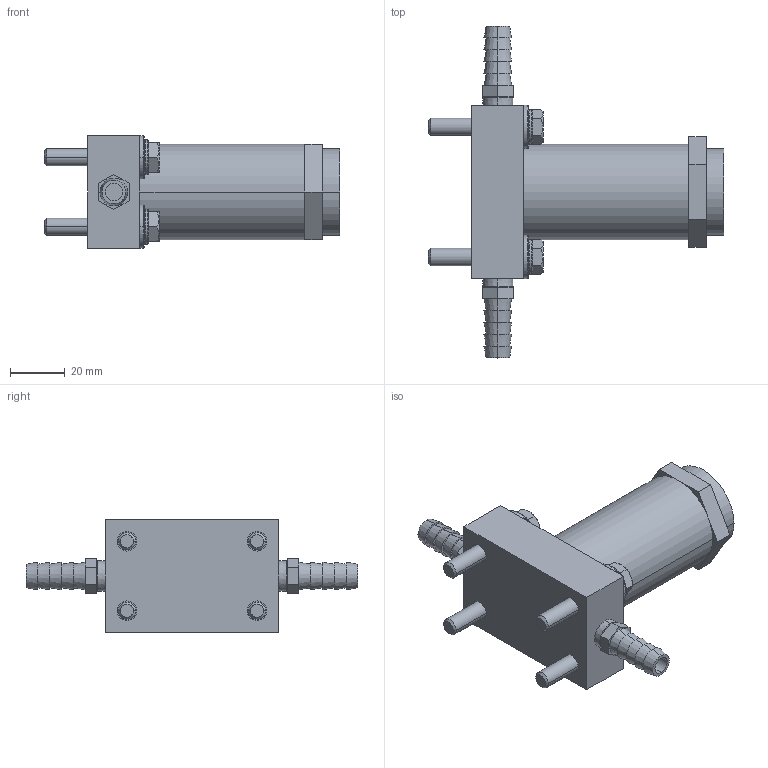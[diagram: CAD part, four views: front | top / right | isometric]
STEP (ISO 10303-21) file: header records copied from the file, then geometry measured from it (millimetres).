
FILE_DESCRIPTION((''),'2;1');
FILE_NAME('XA3_ASM','2017-08-24T',('jennifer.elliott'),('CenterLine (Windsor) Ltd - Automation Components Division'),'PRO/ENGINEER BY PARAMETRIC TECHNOLOGY CORPORATION, 2015030','PRO/ENGINEER BY PARAMETRIC TECHNOLOGY CORPORATION, 2015030','');
FILE_SCHEMA(('AUTOMOTIVE_DESIGN { 1 0 10303 214 1 1 1 1 }'));
Length unit declared in the file: inch
Products named in the file (17): PRT0855; PRT0856; PRT0857; PRT0858; PRT0859; PRT0860; PRT0861; PRT0862; PRT0863; PRT0864; PRT0865; ASM0011_ASM; PRT0866; PRT0867; TMP_DWG-3DSOLID_72; PRT0868; XA3_ASM
Assembly tree (16 placements, depth 3):
  XA3_ASM
    PRT0855
    PRT0856
    PRT0857
    PRT0858
    PRT0859
    PRT0860
    PRT0861
    ASM0011_ASM
      PRT0862
      PRT0863
      PRT0864
      PRT0865
    PRT0866
    PRT0867
    TMP_DWG-3DSOLID_72
    PRT0868
Bounding box: 107.95 x 121.41 x 41.27 mm (x, y, z)
Volume: 126998.5 mm3; surface area: 34369.3 mm2
Topology: 14 solids, 14 shells, 232 faces, 538 edges, 352 vertices
Faces by surface type: plane 104, cone 56, cylinder 48, torus 24
Entity records: 8025 total; most frequent: CARTESIAN_POINT 1654, DIRECTION 1232, ORIENTED_EDGE 1076, EDGE_CURVE 538, AXIS2_PLACEMENT_3D 513, VERTEX_POINT 352, EDGE_LOOP 270, CIRCLE 244
